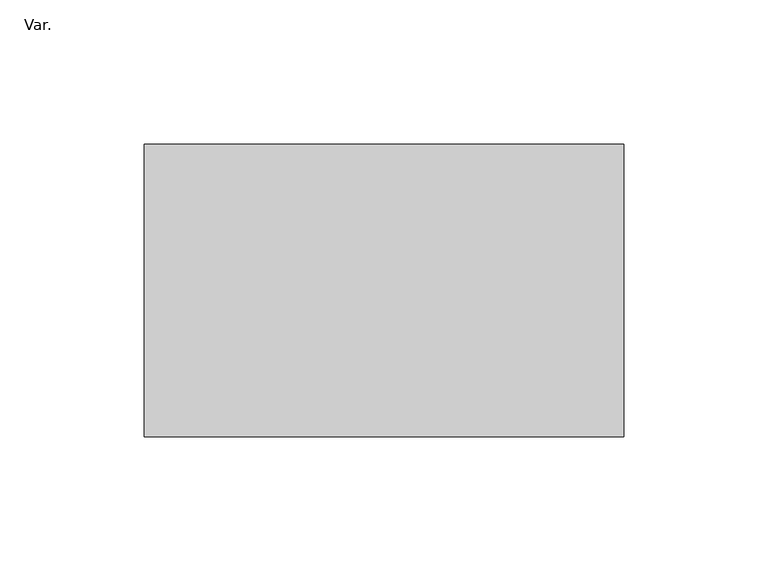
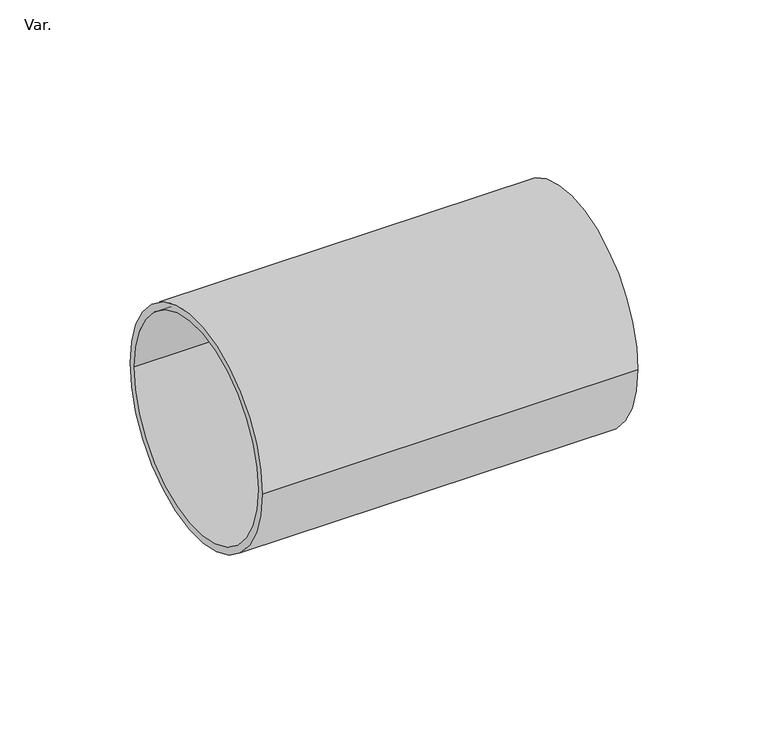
"""IFC4 building model written with IfcOpenShell, lengths in millimetres: pipe fitting geometry, AmancoWavin_ConexõesdeTubos_EsgotoZNãoUsarCaixaSifonadaSilentiumProlongamento : Var.."""

import ifcopenshell
import ifcopenshell.guid

model = None  # the IFC model being written
_history = None  # IfcOwnerHistory: only IFC2X3 demands one
_inside = {}  # id of a spatial element -> (the spatial element, [elements in it])
_under = {}  # id of a project, library or spatial element -> (it, [spatial elements below it])
_declared = {}  # id of a project -> (the project, [libraries it declares])
_typed = {}  # id of a type object -> (the type object, [elements of that type])
_made_of = {}  # id of a material, layer set ... -> (it, [elements and type objects made of it])


def new_model(schema):
    """Start an empty IFC model of exactly this schema.

    Asked for "IFC4X3", IfcOpenShell would pick the latest addendum, in which some entities
    have other attributes; the version numbers below select the first issue.
    IFC2X3 requires an IfcOwnerHistory on every rooted entity: one is made here for all.
    """
    global model, _history
    if schema == "IFC4X3":
        model = ifcopenshell.file(schema_version=(4, 3, 0, 0))
    else:
        model = ifcopenshell.file(schema=schema)
    _inside.clear()
    _under.clear()
    _declared.clear()
    _typed.clear()
    _made_of.clear()
    _history = None
    if model.schema == "IFC2X3":
        org = make("IfcOrganization", Name="unknown")
        user = make(
            "IfcPersonAndOrganization",
            ThePerson=make("IfcPerson", FamilyName="unknown"),
            TheOrganization=org,
        )
        app = make(
            "IfcApplication",
            ApplicationDeveloper=org,
            Version="unknown",
            ApplicationFullName="unknown",
            ApplicationIdentifier="unknown",
        )
        _history = make(
            "IfcOwnerHistory",
            OwningUser=user,
            OwningApplication=app,
            ChangeAction="ADDED",
            CreationDate=0,
        )
    return model


def make(cls, **values):
    """One entity of the class cls with the attributes given. An attribute that is None is left unset."""
    return model.create_entity(
        cls, **{name: value for name, value in values.items() if value is not None}
    )


def rooted(cls, **values):
    """An entity with a GlobalId (a new one), such as an element, a storey or a relation."""
    return make(cls, GlobalId=ifcopenshell.guid.new(), OwnerHistory=_history, **values)


def si_unit(unit_type, name, prefix=None):
    """IfcSIUnit, for example si_unit("LENGTHUNIT", "METRE", prefix="MILLI")."""
    return make("IfcSIUnit", UnitType=unit_type, Prefix=prefix, Name=name)


def assignment(units):
    """IfcUnitAssignment: the units of a project."""
    return None if units is None else make("IfcUnitAssignment", Units=units)


def point(xyz):
    """IfcCartesianPoint."""
    return None if xyz is None else make("IfcCartesianPoint", Coordinates=xyz)


def direction(xyz):
    """IfcDirection."""
    return None if xyz is None else make("IfcDirection", DirectionRatios=xyz)


def frame(location, z_axis=None, x_axis=None):
    """IfcAxis2Placement3D, a coordinate frame: its origin and axes. An axis left out is left unset."""
    return make(
        "IfcAxis2Placement3D",
        Location=point(location),
        Axis=direction(z_axis),
        RefDirection=direction(x_axis),
    )


def frame_2d(location, x_axis=None):
    """IfcAxis2Placement2D, a coordinate frame in the plane: its origin and x axis."""
    return make(
        "IfcAxis2Placement2D", Location=point(location), RefDirection=direction(x_axis)
    )


def origin():
    """The frame at (0, 0, 0) with its axes left unset."""
    return frame((0.0, 0.0, 0.0))


def origin_2d():
    """The frame at (0, 0) in the plane with its x axis left unset."""
    return frame_2d((0.0, 0.0))


def place(relative_to, where):
    """IfcLocalPlacement: puts the frame where relative to a parent placement (None: the world)."""
    return make(
        "IfcLocalPlacement", PlacementRelTo=relative_to, RelativePlacement=where
    )


def context(
    kind, dimensions, precision=None, world=None, true_north=None, identifier=None
):
    """IfcGeometricRepresentationContext, for example the 3D "Model" context."""
    return make(
        "IfcGeometricRepresentationContext",
        ContextIdentifier=identifier,
        ContextType=kind,
        CoordinateSpaceDimension=dimensions,
        Precision=precision,
        WorldCoordinateSystem=world,
        TrueNorth=true_north,
    )


def project(units=None, contexts=None):
    """IfcProject with its units and contexts."""
    return rooted(
        "IfcProject",
        Name="project",
        RepresentationContexts=contexts,
        UnitsInContext=assignment(units),
    )


def spatial(cls, under=None, at=None, **own):
    """A site, building, storey or space (cls), placed at a placement, below another one or the project."""
    s = rooted(cls, ObjectPlacement=at, **own)
    if under is not None:
        _under.setdefault(under.id(), (under, []))[1].append(s)
    return s


def circle_curve(where, radius):
    """IfcCircle in the frame where."""
    return make("IfcCircle", Position=where, Radius=radius)


def trimmed(basis, trim1, trim2, sense, master):
    """IfcTrimmedCurve: the piece of a basis curve between two trims."""
    return make(
        "IfcTrimmedCurve",
        BasisCurve=basis,
        Trim1=trim1,
        Trim2=trim2,
        SenseAgreement=sense,
        MasterRepresentation=master,
    )


def segment(curve, same_sense, transition):
    """IfcCompositeCurveSegment."""
    return make(
        "IfcCompositeCurveSegment",
        Transition=transition,
        SameSense=same_sense,
        ParentCurve=curve,
    )


def composite_curve(segments, self_intersect=None):
    """IfcCompositeCurve: segments joined end to end."""
    return make("IfcCompositeCurve", Segments=segments, SelfIntersect=self_intersect)


def outline(outer, holes=None, kind="AREA"):
    """IfcArbitraryClosedProfileDef: a profile drawn as a closed curve; with holes, ...WithVoids."""
    if holes is None:
        return make("IfcArbitraryClosedProfileDef", ProfileType=kind, OuterCurve=outer)
    return make(
        "IfcArbitraryProfileDefWithVoids",
        ProfileType=kind,
        OuterCurve=outer,
        InnerCurves=holes,
    )


def extrude(swept, where, along, depth):
    """IfcExtrudedAreaSolid: the profile swept, set in the frame where, extruded along a direction by depth."""
    return make(
        "IfcExtrudedAreaSolid",
        SweptArea=swept,
        Position=where,
        ExtrudedDirection=direction(along),
        Depth=depth,
    )


def shape(context_of_items, identifier, shape_type, items):
    """IfcShapeRepresentation: the items that make up one representation, for example the "Body"."""
    return make(
        "IfcShapeRepresentation",
        ContextOfItems=context_of_items,
        RepresentationIdentifier=identifier,
        RepresentationType=shape_type,
        Items=items,
    )


def source(mapping_origin, context_of_items, identifier, shape_type, items):
    """IfcRepresentationMap: a shape defined once, which mapped items show again and again."""
    return make(
        "IfcRepresentationMap",
        MappingOrigin=mapping_origin,
        MappedRepresentation=shape(context_of_items, identifier, shape_type, items),
    )


def transform(
    local_origin,
    x_axis=None,
    y_axis=None,
    z_axis=None,
    scale=None,
    scale2=None,
    scale3=None,
    uniform=True,
):
    """IfcCartesianTransformationOperator3D, or its non-uniform kind. x_axis, y_axis, z_axis: its Axis1, 2, 3."""
    if uniform:
        return make(
            "IfcCartesianTransformationOperator3D",
            Axis1=direction(x_axis),
            Axis2=direction(y_axis),
            LocalOrigin=point(local_origin),
            Scale=scale,
            Axis3=direction(z_axis),
        )
    return make(
        "IfcCartesianTransformationOperator3DnonUniform",
        Axis1=direction(x_axis),
        Axis2=direction(y_axis),
        LocalOrigin=point(local_origin),
        Scale=scale,
        Axis3=direction(z_axis),
        Scale2=scale2,
        Scale3=scale3,
    )


def mapped(mapping_source, mapping_target):
    """IfcMappedItem: shows the shape of a source again, moved by a transform."""
    return make(
        "IfcMappedItem", MappingSource=mapping_source, MappingTarget=mapping_target
    )


def made_of(thing, what):
    """Note that an element or type object is made of a material, layer set ...; save() writes the relation."""
    if what is not None:
        _made_of.setdefault(what.id(), (what, []))[1].append(thing)
    return thing


def element(
    cls,
    number,
    at=None,
    inside=None,
    cuts=None,
    type_object=None,
    material=None,
    context=None,
    identifier="Body",
    shape_type=None,
    held_by="IfcProductDefinitionShape",
    body=None,
    shapes=None,
    **own,
):
    """One element of the class cls, such as IfcWall. Its Tag is "e" and its number.

    at: its placement. inside: the storey or other place that contains it. cuts: it is an
    opening in that element (IfcRelVoidsElement). A single representation is given by context,
    identifier, shape_type and body (its items); several are given by shapes. held_by: the class
    of the entity that holds the representations. save() writes the other relations.
    """
    e = rooted(cls, Tag="e%d" % number, ObjectPlacement=at, **own)
    if body is not None:
        shapes = [shape(context, identifier, shape_type, body)]
    if shapes is not None:
        e.Representation = make(held_by, Representations=shapes)
    if inside is not None:
        _inside.setdefault(inside.id(), (inside, []))[1].append(e)
    if cuts is not None:
        rooted(
            "IfcRelVoidsElement", RelatingBuildingElement=cuts, RelatedOpeningElement=e
        )
    if type_object is not None:
        _typed.setdefault(type_object.id(), (type_object, []))[1].append(e)
    return made_of(e, material)


def aggregate(whole, parts):
    """IfcRelAggregates: a whole, such as a stair, and the parts it consists of."""
    return rooted("IfcRelAggregates", RelatingObject=whole, RelatedObjects=parts)


def save(model, path):
    """Write the relations noted so far, then the file.

    IfcRelAggregates (storeys below a building ...), IfcRelContainedInSpatialStructure (elements
    in a storey), IfcRelDefinesByType, IfcRelAssociatesMaterial and IfcRelDeclares: one each for
    every whole, place, type object, material and project.
    """
    for whole, parts in _under.values():
        aggregate(whole, parts)
    for where, things in _inside.values():
        rooted(
            "IfcRelContainedInSpatialStructure",
            RelatedElements=things,
            RelatingStructure=where,
        )
    for kind, things in _typed.values():
        rooted("IfcRelDefinesByType", RelatedObjects=things, RelatingType=kind)
    for what, things in _made_of.values():
        rooted("IfcRelAssociatesMaterial", RelatedObjects=things, RelatingMaterial=what)
    for by, libraries in _declared.values():
        rooted("IfcRelDeclares", RelatingContext=by, RelatedDefinitions=libraries)
    model.write(path)


def var_adf0dea4(model_context):
    return source(origin(), model_context, "Body", "SweptSolid", [
        extrude(outline(composite_curve([segment(trimmed(circle_curve(origin_2d(), 50.8), [point((-50.8, 0.0))], [point((50.8, 0.0))], False, "CARTESIAN"), True, "CONTINUOUS"), segment(trimmed(circle_curve(origin_2d(), 50.8), [point((50.8, 0.0))], [point((-50.8, 0.0))], False, "CARTESIAN"), True, "CONTINUOUS")], self_intersect=False), holes=[composite_curve([segment(trimmed(circle_curve(origin_2d(), 47.6), [point((-47.6, 0.0))], [point((47.6, 0.0))], True, "CARTESIAN"), True, "CONTINUOUS"), segment(trimmed(circle_curve(origin_2d(), 47.6), [point((47.6, 0.0))], [point((-47.6, 0.0))], True, "CARTESIAN"), True, "CONTINUOUS")], self_intersect=False)]), frame((0.0, 0.0, 0.0), z_axis=(1.0, 0.0, 0.0), x_axis=(0.0, 1.0, 0.0)), (0.0, 0.0, 1.0), 166.625),
    ])


if __name__ == "__main__":
    model = new_model("IFC4")
    model_context = context("Model", 3, world=origin())
    ifc_project = project(units=[si_unit("LENGTHUNIT", "METRE", prefix="MILLI")], contexts=[model_context])
    site = spatial("IfcSite", under=ifc_project)
    building = spatial("IfcBuilding", under=site)
    placement = place(None, origin())
    var_shape = var_adf0dea4(model_context)
    element("IfcPipeFitting", 1, ObjectType="AmancoWavin_ConexõesdeTubos_EsgotoZNãoUsarCaixaSifonadaSilentiumProlongamento : Var.", at=placement, inside=building, context=model_context, shape_type="MappedRepresentation", body=[
        mapped(var_shape, transform((0.0, 0.0, 0.0), x_axis=(1.0, 0.0, 0.0), y_axis=(0.0, 1.0, 0.0), z_axis=(0.0, 0.0, 1.0))),
    ])
    save(model, "model.ifc")
